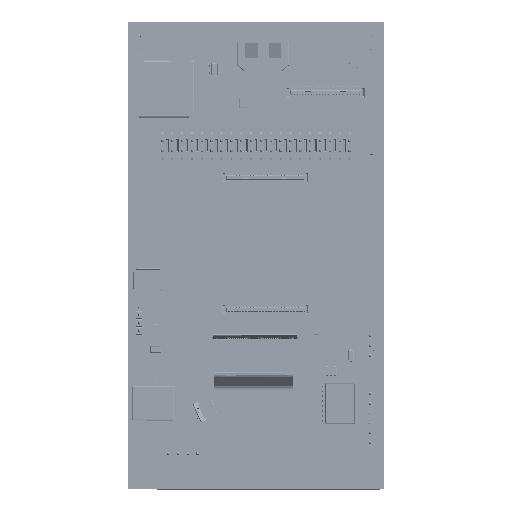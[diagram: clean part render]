
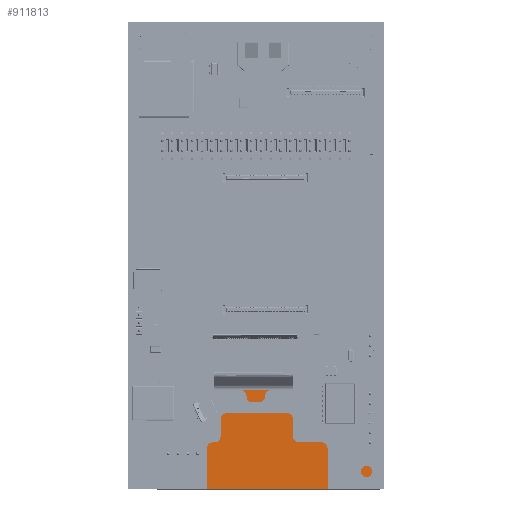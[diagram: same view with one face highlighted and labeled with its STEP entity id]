
A CAD part, top view. The second image highlights one B-rep face of the part: STEP entity #911813.
In plain terms, the highlighted planar face has unit normal (0, 0, 1).
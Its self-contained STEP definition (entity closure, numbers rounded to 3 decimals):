
#1550 = B_SPLINE_CURVE_WITH_KNOTS ( 'NONE', 3,
 ( #634616, #718487, #643818, #78094 ),
 .UNSPECIFIED., .F., .F.,
 ( 4, 4 ),
 ( 0., 1. ),
 .UNSPECIFIED. ) ;
#17458 = VERTEX_POINT ( 'NONE', #302179 ) ;
#18164 = EDGE_CURVE ( 'NONE', #849878, #220967, #1550, .T. ) ;
#58423 = CARTESIAN_POINT ( 'NONE',  ( -91.386, -37.701, 24.856 ) ) ;
#61438 = PLANE ( 'NONE',  #649288 ) ;
#78094 = CARTESIAN_POINT ( 'NONE',  ( -56.386, -31.861, 24.856 ) ) ;
#97817 = VECTOR ( 'NONE', #195893, 1000. ) ;
#111732 = CARTESIAN_POINT ( 'NONE',  ( -76.886, -31.861, 24.856 ) ) ;
#121140 = LINE ( 'NONE', #630359, #97817 ) ;
#140878 = CARTESIAN_POINT ( 'NONE',  ( -32.886, -179.601, 24.859 ) ) ;
#184059 = CARTESIAN_POINT ( 'NONE',  ( -86.553, -37.701, 24.856 ) ) ;
#195893 = DIRECTION ( 'NONE',  ( -1., 0., 0. ) ) ;
#196471 = EDGE_CURVE ( 'NONE', #531592, #744202, #726295, .T. ) ;
#196548 = B_SPLINE_CURVE_WITH_KNOTS ( 'NONE', 3,
 ( #465156, #539904, #825036, #820431 ),
 .UNSPECIFIED., .F., .F.,
 ( 4, 4 ),
 ( 0., 1. ),
 .UNSPECIFIED. ) ;
#200962 = ORIENTED_EDGE ( 'NONE', *, *, #608385, .T. ) ;
#209778 = CARTESIAN_POINT ( 'NONE',  ( -34.086, -37.701, 24.856 ) ) ;
#220967 = VERTEX_POINT ( 'NONE', #363889 ) ;
#273422 = CARTESIAN_POINT ( 'NONE',  ( -91.386, -50.701, 24.856 ) ) ;
#281997 = VERTEX_POINT ( 'NONE', #348407 ) ;
#302179 = CARTESIAN_POINT ( 'NONE',  ( -34.086, -37.701, 24.856 ) ) ;
#309495 = EDGE_CURVE ( 'NONE', #481687, #452431, #360099, .T. ) ;
#315959 = B_SPLINE_CURVE_WITH_KNOTS ( 'NONE', 3,
 ( #899021, #333435, #184059, #903646 ),
 .UNSPECIFIED., .F., .F.,
 ( 4, 4 ),
 ( 0., 1. ),
 .UNSPECIFIED. ) ;
#326218 = CARTESIAN_POINT ( 'NONE',  ( -91.386, -57.201, 24.857 ) ) ;
#333435 = CARTESIAN_POINT ( 'NONE',  ( -81.72, -37.701, 24.856 ) ) ;
#348407 = CARTESIAN_POINT ( 'NONE',  ( -34.086, -57.201, 24.857 ) ) ;
#352205 = CARTESIAN_POINT ( 'NONE',  ( -76.886, -37.701, 24.856 ) ) ;
#355761 = DIRECTION ( 'NONE',  ( -1., 0., 0. ) ) ;
#360099 = B_SPLINE_CURVE_WITH_KNOTS ( 'NONE', 3,
 ( #369964, #655223, #659765, #379131 ),
 .UNSPECIFIED., .F., .F.,
 ( 4, 4 ),
 ( 0., 1. ),
 .UNSPECIFIED. ) ;
#363889 = CARTESIAN_POINT ( 'NONE',  ( -56.386, -31.861, 24.856 ) ) ;
#369964 = CARTESIAN_POINT ( 'NONE',  ( -76.886, -31.861, 24.856 ) ) ;
#379131 = CARTESIAN_POINT ( 'NONE',  ( -76.886, -37.701, 24.856 ) ) ;
#406273 = CARTESIAN_POINT ( 'NONE',  ( -48.953, -37.701, 24.856 ) ) ;
#415690 = ORIENTED_EDGE ( 'NONE', *, *, #491381, .T. ) ;
#433089 = ORIENTED_EDGE ( 'NONE', *, *, #309495, .T. ) ;
#442865 = CARTESIAN_POINT ( 'NONE',  ( -32.886, -57.201, 24.857 ) ) ;
#447948 = ORIENTED_EDGE ( 'NONE', *, *, #913501, .T. ) ;
#452431 = VERTEX_POINT ( 'NONE', #352205 ) ;
#462603 = VECTOR ( 'NONE', #648867, 1000. ) ;
#465156 = CARTESIAN_POINT ( 'NONE',  ( -34.086, -57.201, 24.857 ) ) ;
#481687 = VERTEX_POINT ( 'NONE', #111732 ) ;
#491381 = EDGE_CURVE ( 'NONE', #452431, #531592, #315959, .T. ) ;
#531592 = VERTEX_POINT ( 'NONE', #870941 ) ;
#539904 = CARTESIAN_POINT ( 'NONE',  ( -34.086, -50.701, 24.856 ) ) ;
#544615 = CARTESIAN_POINT ( 'NONE',  ( -91.386, -57.201, 24.857 ) ) ;
#575286 = FACE_OUTER_BOUND ( 'NONE', #912943, .T. ) ;
#607185 = ORIENTED_EDGE ( 'NONE', *, *, #750881, .T. ) ;
#608385 = EDGE_CURVE ( 'NONE', #220967, #481687, #121140, .T. ) ;
#630359 = CARTESIAN_POINT ( 'NONE',  ( -32.886, -31.861, 24.856 ) ) ;
#634616 = CARTESIAN_POINT ( 'NONE',  ( -56.386, -37.701, 24.856 ) ) ;
#643818 = CARTESIAN_POINT ( 'NONE',  ( -56.386, -33.807, 24.856 ) ) ;
#648867 = DIRECTION ( 'NONE',  ( -1., 0., 0. ) ) ;
#649288 = AXIS2_PLACEMENT_3D ( 'NONE', #140878, #720161, #355761 ) ;
#655223 = CARTESIAN_POINT ( 'NONE',  ( -76.886, -33.807, 24.856 ) ) ;
#659765 = CARTESIAN_POINT ( 'NONE',  ( -76.886, -35.754, 24.856 ) ) ;
#661686 = ORIENTED_EDGE ( 'NONE', *, *, #196471, .T. ) ;
#691338 = CARTESIAN_POINT ( 'NONE',  ( -56.386, -37.701, 24.856 ) ) ;
#718487 = CARTESIAN_POINT ( 'NONE',  ( -56.386, -35.754, 24.856 ) ) ;
#720161 = DIRECTION ( 'NONE',  ( 0., 0., 1. ) ) ;
#726295 = B_SPLINE_CURVE_WITH_KNOTS ( 'NONE', 3,
 ( #58423, #759556, #273422, #544615 ),
 .UNSPECIFIED., .F., .F.,
 ( 4, 4 ),
 ( 0., 1. ),
 .UNSPECIFIED. ) ;
#732666 = LINE ( 'NONE', #442865, #462603 ) ;
#744202 = VERTEX_POINT ( 'NONE', #326218 ) ;
#750881 = EDGE_CURVE ( 'NONE', #17458, #849878, #759326, .T. ) ;
#759326 = B_SPLINE_CURVE_WITH_KNOTS ( 'NONE', 3,
 ( #209778, #761392, #406273, #691338 ),
 .UNSPECIFIED., .F., .F.,
 ( 4, 4 ),
 ( 0., 1. ),
 .UNSPECIFIED. ) ;
#759556 = CARTESIAN_POINT ( 'NONE',  ( -91.386, -44.201, 24.856 ) ) ;
#761392 = CARTESIAN_POINT ( 'NONE',  ( -41.52, -37.701, 24.856 ) ) ;
#783794 = EDGE_CURVE ( 'NONE', #281997, #744202, #732666, .T. ) ;
#820431 = CARTESIAN_POINT ( 'NONE',  ( -34.086, -37.701, 24.856 ) ) ;
#825036 = CARTESIAN_POINT ( 'NONE',  ( -34.086, -44.201, 24.856 ) ) ;
#843066 = ORIENTED_EDGE ( 'NONE', *, *, #18164, .T. ) ;
#849878 = VERTEX_POINT ( 'NONE', #888344 ) ;
#870941 = CARTESIAN_POINT ( 'NONE',  ( -91.386, -37.701, 24.856 ) ) ;
#876639 = ORIENTED_EDGE ( 'NONE', *, *, #783794, .F. ) ;
#888344 = CARTESIAN_POINT ( 'NONE',  ( -56.386, -37.701, 24.856 ) ) ;
#899021 = CARTESIAN_POINT ( 'NONE',  ( -76.886, -37.701, 24.856 ) ) ;
#903646 = CARTESIAN_POINT ( 'NONE',  ( -91.386, -37.701, 24.856 ) ) ;
#911813 = ADVANCED_FACE ( 'NONE', ( #575286 ), #61438, .T. ) ;
#912943 = EDGE_LOOP ( 'NONE', ( #200962, #433089, #415690, #661686, #876639, #447948, #607185, #843066 ) ) ;
#913501 = EDGE_CURVE ( 'NONE', #281997, #17458, #196548, .T. ) ;
